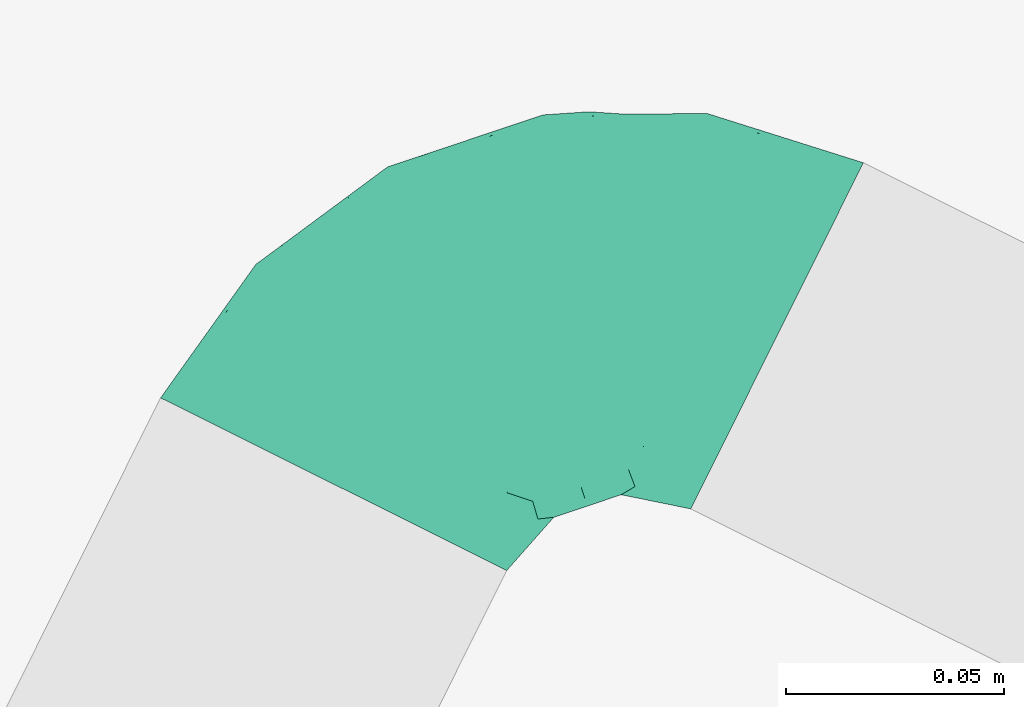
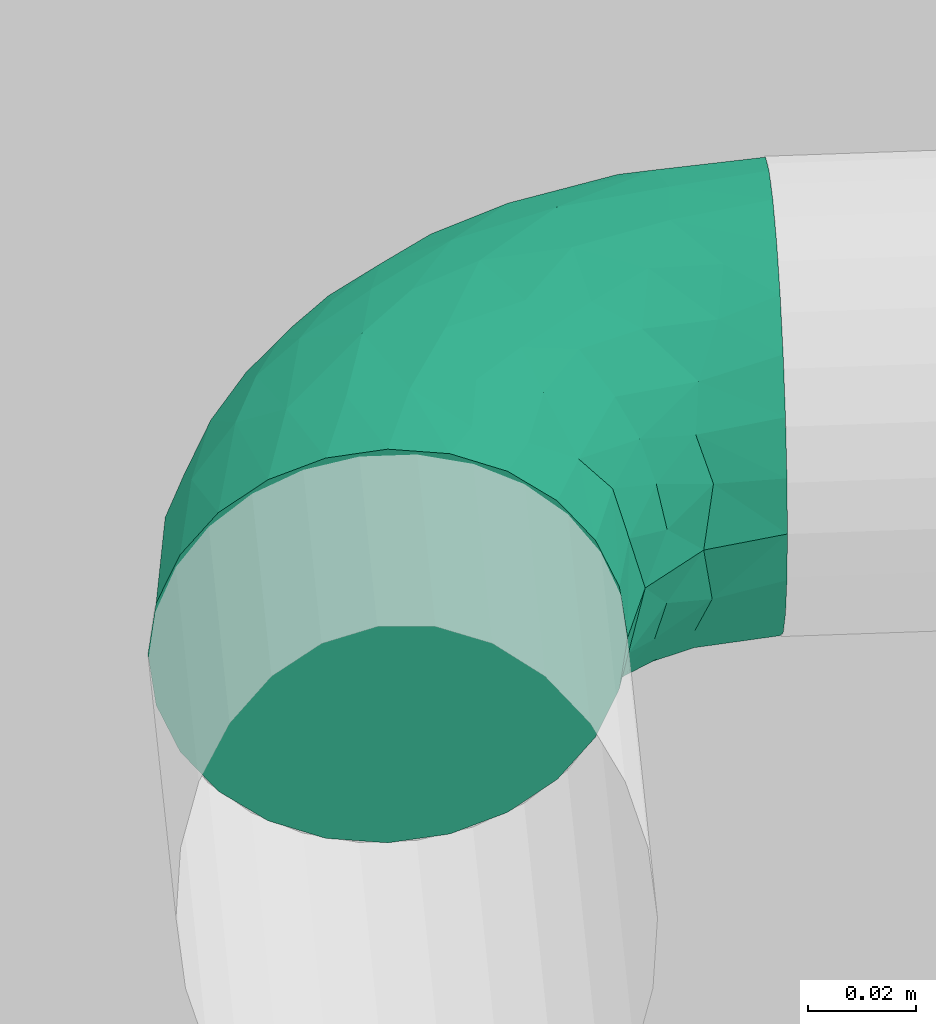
# One storey, part 83 of 91: 1 flow fitting.
"""IFC2X3 building model written with IfcOpenShell, lengths in metres."""

from ifc_helpers import new_model, entity, si_unit, converted_unit, derived_unit, direction, frame, origin, place, context, subcontext, project, spatial, faceted_brep, source, transform, mapped, type_object, type_shapes, element, save


model = new_model("IFC2X3")

# Units and contexts
model_context = context("Model", 3, precision=1e-05, world=origin(), true_north=direction((0.894925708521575, 0.446215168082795)))
context_of_model = context(None, 3, precision=1e-05, world=origin(), true_north=direction((0.894925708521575, 0.446215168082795)))
body_context = subcontext(model_context, "Body", "Model", "MODEL_VIEW")
ifc_project = project(units=[si_unit("LENGTHUNIT", "METRE"), si_unit("AREAUNIT", "SQUARE_METRE"), si_unit("VOLUMEUNIT", "CUBIC_METRE"), converted_unit("PLANEANGLEUNIT", "DEGREE", entity("IfcRatioMeasure", 0.0174532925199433), si_unit("PLANEANGLEUNIT", "RADIAN"), dimensions=[0, 0, 0, 0, 0, 0, 0]), si_unit("MASSUNIT", "GRAM", prefix="KILO"), si_unit("TIMEUNIT", "SECOND"), si_unit("FREQUENCYUNIT", "HERTZ"), si_unit("THERMODYNAMICTEMPERATUREUNIT", "DEGREE_CELSIUS"), derived_unit("THERMALTRANSMITTANCEUNIT", [(si_unit("MASSUNIT", "GRAM", prefix="KILO"), 1), (si_unit("THERMODYNAMICTEMPERATUREUNIT", "KELVIN"), -1), (si_unit("TIMEUNIT", "SECOND"), -3)]), derived_unit("VOLUMETRICFLOWRATEUNIT", [(si_unit("LENGTHUNIT", "METRE"), 3), (si_unit("TIMEUNIT", "SECOND"), -1)]), si_unit("ELECTRICCURRENTUNIT", "AMPERE"), si_unit("ELECTRICVOLTAGEUNIT", "VOLT"), si_unit("POWERUNIT", "WATT"), si_unit("FORCEUNIT", "NEWTON", prefix="KILO"), si_unit("ILLUMINANCEUNIT", "LUX"), si_unit("LUMINOUSFLUXUNIT", "LUMEN"), si_unit("LUMINOUSINTENSITYUNIT", "CANDELA"), si_unit("PRESSUREUNIT", "PASCAL")], contexts=[model_context, context_of_model])

# Site, building, storey
site_placement = place(None, frame((218.228324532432, 584.720189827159, 0.0), z_axis=(0.0, 0.0, 1.0), x_axis=(0.446215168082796, 0.894925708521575, 0.0)))
site = spatial("IfcSite", under=ifc_project, at=site_placement, Name="Default", CompositionType="ELEMENT")
building_placement = place(site_placement, origin())
building = spatial("IfcBuilding", under=site, at=building_placement, CompositionType="ELEMENT")
storey_placement = place(building_placement, origin())
storey = spatial("IfcBuildingStorey", under=building, at=storey_placement, Name="0 - Piano Terra", CompositionType="ELEMENT", Elevation=0.0)

# Flow fitting
pipe_fitting_type = type_object("IfcPipeFittingType", Name="Standard", PredefinedType="NOTDEFINED")
shared_shape = source(origin(), body_context, "Body", "Brep", [
    faceted_brep([(-0.0759999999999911, 0.0222249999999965, -0.0384948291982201), (-0.0759999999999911, 0.0115045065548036, -0.0429354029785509), (-0.0759999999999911, 0.0, -0.0444500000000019), (-0.0759999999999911, -0.0115045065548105, -0.042935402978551), (-0.075999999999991, -0.0222250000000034, -0.0384948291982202), (-0.075999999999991, -0.0314308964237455, -0.031430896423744), (-0.075999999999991, -0.0384948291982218, -0.022225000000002), (-0.075999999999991, -0.0429354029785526, -0.011504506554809), (-0.075999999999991, -0.0444500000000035, 0.0), (-0.075999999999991, -0.0429354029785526, 0.011504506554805), (-0.075999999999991, -0.0384948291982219, 0.022224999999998), (-0.075999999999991, -0.0314308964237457, 0.0314308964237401), (-0.075999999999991, -0.0222250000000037, 0.0384948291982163), (-0.0759999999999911, -0.0115045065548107, 0.0429354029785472), (-0.0759999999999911, 0.0, 0.0444499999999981), (-0.0759999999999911, 0.0115045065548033, 0.0429354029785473), (-0.0759999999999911, 0.0222249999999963, 0.0384948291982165), (-0.0759999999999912, 0.0314308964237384, 0.0314308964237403), (-0.0759999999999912, 0.0384948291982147, 0.0222249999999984), (-0.0759999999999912, 0.0429354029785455, 0.0115045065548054), (-0.0759999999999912, 0.0444499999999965, 0.0), (-0.0759999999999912, 0.0429354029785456, -0.0115045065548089), (-0.0759999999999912, 0.0384948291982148, -0.0222250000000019), (-0.0759999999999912, 0.0314308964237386, -0.0314308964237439), (0.0, 0.0759999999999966, -0.0444500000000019), (-0.0115045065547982, 0.0759999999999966, -0.0429354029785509), (-0.0222249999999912, 0.0759999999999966, -0.0384948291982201), (-0.0314308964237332, 0.0759999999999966, -0.0314308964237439), (-0.0384948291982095, 0.0759999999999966, -0.0222250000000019), (-0.0429354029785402, 0.0759999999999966, -0.0115045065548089), (-0.0444499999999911, 0.0759999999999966, 0.0), (-0.0429354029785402, 0.0759999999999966, 0.0115045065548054), (-0.0384948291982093, 0.0759999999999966, 0.0222249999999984), (-0.031430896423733, 0.0759999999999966, 0.0314308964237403), (-0.0222249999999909, 0.0759999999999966, 0.0384948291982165), (-0.011504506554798, 0.0759999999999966, 0.0429354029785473), (0.0, 0.0759999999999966, 0.0444499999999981), (0.0115045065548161, 0.0759999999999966, 0.0429354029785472), (0.022225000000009, 0.0759999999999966, 0.0384948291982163), (0.031430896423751, 0.0759999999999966, 0.0314308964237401), (0.0384948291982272, 0.0759999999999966, 0.022224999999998), (0.042935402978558, 0.0759999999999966, 0.011504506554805), (0.0444500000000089, 0.0759999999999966, 0.0), (0.0429354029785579, 0.0759999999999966, -0.011504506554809), (0.0384948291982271, 0.0759999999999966, -0.022225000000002), (0.0314308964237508, 0.0759999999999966, -0.031430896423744), (0.0222250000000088, 0.0759999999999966, -0.0384948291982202), (0.0115045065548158, 0.0759999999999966, -0.042935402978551), (-0.055251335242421, -0.0350999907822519, 0.0246019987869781), (-0.0387789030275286, -0.0385547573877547, 0.0), (-0.0513960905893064, -0.0397481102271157, 0.0135506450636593), (-0.0541387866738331, -0.0409875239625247, 0.0), (0.0164280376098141, 0.018681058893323, 0.0300447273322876), (0.0133440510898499, 0.00595972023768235, 0.0238254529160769), (0.0227502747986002, 0.0181678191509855, 0.0223222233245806), (-0.0566160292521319, 0.00529376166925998, 0.0443688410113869), (-0.0518504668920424, 0.0178853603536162, 0.0424858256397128), (-0.0658426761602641, 0.0162370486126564, 0.0417044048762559), (0.00670599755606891, 0.0058076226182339, 0.0303487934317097), (0.00217280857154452, -0.00488037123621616, 0.0253915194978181), (0.0217662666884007, 0.0334721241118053, 0.0322256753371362), (0.0133779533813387, 0.0277507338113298, 0.0363591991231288), (-0.0489098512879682, -0.0265635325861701, 0.0327252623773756), (-0.0551815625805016, -0.0175181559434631, 0.0397928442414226), (-0.0321967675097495, -0.0350744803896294, 0.0096061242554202), (-0.0219900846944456, -0.0300004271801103, 0.0), (-0.0380359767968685, 0.0129504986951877, 0.0443849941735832), (-0.0499161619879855, 0.0304962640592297, 0.0376985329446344), (-0.0641975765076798, 0.0266916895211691, 0.0365481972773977), (-0.0267918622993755, 0.0407735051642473, 0.0416664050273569), (-0.0178853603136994, 0.0518504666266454, 0.0424858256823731), (-0.0304962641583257, 0.0499161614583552, 0.0376985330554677), (-0.0162370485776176, 0.0658426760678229, 0.0417044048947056), (-0.00529376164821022, 0.0566160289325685, 0.0443688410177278), (-0.060002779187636, 0.0363683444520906, 0.0294868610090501), (-0.0571942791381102, -0.00652591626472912, 0.0436019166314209), (-0.0131742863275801, -0.0091104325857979, 0.0329931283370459), (-0.0104548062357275, -0.0146502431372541, 0.0262592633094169), (-0.0363683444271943, 0.060002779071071, 0.0294868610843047), (-0.0266916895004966, 0.0641975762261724, 0.036548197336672), (-0.0591167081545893, 0.0427163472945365, 0.0219026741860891), (-0.0130572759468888, 0.0374829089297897, 0.0443951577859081), (-0.0283996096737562, 0.02839960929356, 0.0435936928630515), (-0.0206947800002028, 0.0157137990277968, 0.0440684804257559), (-0.0622162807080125, 0.0455810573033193, 0.0126773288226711), (-0.0512634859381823, 0.0512634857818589, 0.0171284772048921), (-0.0440264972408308, 0.0440264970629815, 0.032066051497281), (-0.0427163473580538, 0.0591167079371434, 0.0219026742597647), (-0.0484175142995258, 0.0479614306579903, 0.0251239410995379), (0.0175181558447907, 0.0551815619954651, 0.0397928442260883), (0.0265635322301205, 0.0489098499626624, 0.0327252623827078), (-0.0531667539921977, 0.0531667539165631, 0.00808290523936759), (0.0397481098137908, 0.0513960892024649, 0.0135506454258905), (0.0350999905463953, 0.0552513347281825, 0.0246019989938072), (0.0300990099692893, 0.0319822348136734, 0.0215664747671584), (0.00652591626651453, 0.0571942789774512, 0.0436019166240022), (-0.0360375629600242, -0.00228367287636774, 0.0428291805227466), (0.0409875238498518, 0.0541387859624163, 0.0), (-0.00769711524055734, 0.023069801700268, 0.0432135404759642), (-0.0161281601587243, 0.00441100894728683, 0.0409345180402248), (-0.000438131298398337, 0.0181073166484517, 0.0400941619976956), (0.0300004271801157, 0.0219900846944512, 0.0), (0.0350744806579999, 0.0321967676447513, 0.00960612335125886), (0.0263186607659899, 0.0155052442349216, 0.0117666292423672), (-0.0291179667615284, -0.0225220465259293, 0.0296592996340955), (-0.0277507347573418, -0.0133779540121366, 0.0363591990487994), (-0.0602249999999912, 0.0486768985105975, 0.0), (-0.0486768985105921, 0.0602249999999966, 0.0), (-0.0455810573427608, 0.0622162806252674, 0.0126773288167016), (-0.0407466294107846, 0.0268307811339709, 0.0416604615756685), (-0.0377601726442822, 0.0377601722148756, 0.0386689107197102), (-0.00520126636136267, -0.0214460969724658, 0.0), (-0.0155052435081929, -0.0263186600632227, 0.0117666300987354), (-0.0319822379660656, -0.0300990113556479, 0.0215664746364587), (0.00228367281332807, 0.0360375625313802, 0.0428291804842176), (0.0214460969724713, 0.00520126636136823, 0.0), (0.0160594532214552, -0.000115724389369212, 0.00937076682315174), (0.00329314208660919, -0.0118779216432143, 0.0134585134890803), (0.0186652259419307, 0.00689538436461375, 0.0166724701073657), (0.0385547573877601, 0.0387789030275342, 0.0), (-0.00882562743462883, -0.0191172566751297, 0.0184368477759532), (0.00812241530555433, -0.00812241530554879, 0.0), (-0.00308956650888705, 0.00308956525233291, 0.0352249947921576), (0.00665750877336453, 0.014449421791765, 0.0352664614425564), (-0.0663119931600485, 0.0352211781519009, -0.0285295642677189), (0.0356416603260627, 0.063567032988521, -0.0256086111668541), (-0.0597195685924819, 0.00503106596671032, -0.0443355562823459), (-0.0428757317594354, 0.0435409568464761, -0.0331401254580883), (-0.0472933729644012, 0.0477547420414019, -0.0264450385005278), (-0.0380854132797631, 0.0547099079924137, -0.0303060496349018), (-0.0408534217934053, 0.00868227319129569, -0.0444499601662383), (-0.0550040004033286, 0.0172386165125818, -0.0423182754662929), (-0.0619986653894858, 0.0454344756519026, -0.0134059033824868), (-0.0424796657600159, 0.058945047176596, -0.0224049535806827), (-0.0530961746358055, 0.0530961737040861, -0.008605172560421), (-0.005031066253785, 0.0597195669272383, -0.0443355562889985), (-0.0172386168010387, 0.0550039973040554, -0.0423182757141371), (-0.0453499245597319, 0.0261375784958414, -0.0408727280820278), (-0.0597445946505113, 0.0272482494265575, -0.0370157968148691), (-0.0484821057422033, 0.0337753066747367, -0.0363378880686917), (-0.0108421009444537, 0.0108420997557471, -0.0414134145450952), (0.00292359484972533, 0.0313950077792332, -0.0419642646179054), (0.00576470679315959, 0.015577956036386, -0.036290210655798), (-0.0239048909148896, 0.00889487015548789, -0.0435390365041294), (-0.0280822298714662, 0.0165780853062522, -0.0444487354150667), (-0.0155353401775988, 0.0222215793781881, -0.0441768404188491), (-0.0548671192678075, -0.0402641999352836, -0.0140556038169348), (-0.0635670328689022, -0.035641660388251, -0.0256086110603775), (-0.0468237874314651, -0.0338951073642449, -0.0235445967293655), (-0.0542773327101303, -0.0272310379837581, -0.0332571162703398), (-0.0295224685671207, -0.0279582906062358, -0.0232657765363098), (0.0206432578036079, 0.026645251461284, -0.0303065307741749), (0.0272310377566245, 0.0542773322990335, -0.0332571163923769), (0.0338951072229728, 0.0468237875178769, -0.0235445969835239), (-0.063773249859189, -0.0178670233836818, -0.0403436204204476), (-0.0454344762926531, 0.0619986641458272, -0.0134059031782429), (-0.0509858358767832, 0.0509858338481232, -0.018040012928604), (-0.0266452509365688, -0.0206432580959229, -0.0303065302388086), (0.0402641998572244, 0.0548671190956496, -0.0140556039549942), (0.033135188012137, 0.0290265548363, -0.0119449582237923), (-0.0471571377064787, -0.0164855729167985, -0.0392413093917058), (-0.0554032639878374, -0.00637620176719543, -0.0435474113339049), (-0.031395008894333, -0.00292359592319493, -0.0419642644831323), (-0.0589796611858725, 0.0424071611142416, -0.0224886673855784), (-0.0283863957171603, -0.0127648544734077, -0.0369364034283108), (-0.0110970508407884, -0.00438905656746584, -0.0350639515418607), (-0.0353996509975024, -0.0349521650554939, -0.0141213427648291), (-0.0539297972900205, 0.0384008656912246, -0.0304288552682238), (-0.0272482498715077, 0.0597445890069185, -0.0370157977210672), (0.0063762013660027, 0.0554032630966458, -0.0435474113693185), (0.0178670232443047, 0.0637732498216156, -0.0403436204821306), (-0.0130026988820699, -0.0185218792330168, -0.0237207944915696), (0.00307688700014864, -0.0126882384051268, -0.0119183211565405), (-0.0178636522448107, -0.0261829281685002, -0.0157567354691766), (0.01648557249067, 0.0471571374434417, -0.0392413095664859), (-0.0351708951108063, 0.0668051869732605, -0.0284550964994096), (-0.0143062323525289, -0.0267882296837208, -0.00708720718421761), (-0.0367961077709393, 0.036796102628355, -0.0394106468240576), (-0.0263944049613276, 0.0276845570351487, -0.0439339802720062), (0.0115291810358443, 0.0308300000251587, -0.0383364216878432), (0.0277415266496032, 0.0267890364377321, -0.0216489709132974), (-0.00868227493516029, 0.040853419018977, -0.0444499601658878), (-0.0263216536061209, 0.0459443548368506, -0.0406700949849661), (-0.0192830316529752, 0.0407360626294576, -0.0434845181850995), (-0.0337233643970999, 0.049471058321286, -0.0359883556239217), (-0.0405538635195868, 0.018597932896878, -0.0436227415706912), (0.00798111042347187, 0.00716693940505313, -0.0302321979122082), (0.0176308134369, 0.0122534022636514, -0.0242211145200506), (0.00408183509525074, -0.00408183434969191, -0.0242493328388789), (0.0197800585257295, 0.00739832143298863, -0.0150810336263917)], [[[0, 1, 2, 3, 4, 5, 6, 7, 8, 9, 10, 11, 12, 13, 14, 15, 16, 17, 18, 19, 20, 21, 22, 23]], [[24, 25, 26, 27, 28, 29, 30, 31, 32, 33, 34, 35, 36, 37, 38, 39, 40, 41, 42, 43, 44, 45, 46, 47]], [[10, 48, 11]], [[49, 50, 51]], [[52, 53, 54]], [[9, 50, 10]], [[9, 51, 50]], [[55, 56, 57]], [[48, 10, 50]], [[58, 59, 53]], [[60, 61, 52]], [[62, 12, 11]], [[62, 63, 12]], [[64, 49, 65]], [[56, 55, 66]], [[56, 67, 68]], [[69, 70, 71]], [[16, 15, 57]], [[35, 72, 73]], [[74, 18, 17]], [[75, 14, 13]], [[76, 77, 59]], [[78, 71, 79]], [[74, 80, 18]], [[81, 82, 83]], [[20, 19, 84]], [[85, 84, 80]], [[70, 81, 73]], [[86, 74, 67]], [[87, 88, 78]], [[38, 89, 90]], [[85, 91, 84]], [[92, 93, 94]], [[17, 16, 68]], [[93, 40, 39]], [[36, 95, 37]], [[96, 66, 55]], [[36, 35, 73]], [[90, 39, 38]], [[92, 97, 41]], [[98, 99, 100]], [[93, 92, 40]], [[31, 87, 32]], [[92, 41, 40]], [[71, 78, 86]], [[101, 102, 103]], [[104, 105, 62]], [[106, 91, 107]], [[96, 63, 105]], [[107, 108, 30]], [[109, 69, 110]], [[107, 91, 108]], [[111, 112, 65]], [[32, 78, 33]], [[89, 38, 37]], [[31, 108, 87]], [[89, 61, 60]], [[79, 34, 33]], [[72, 35, 34]], [[12, 63, 13]], [[113, 62, 48]], [[103, 102, 94]], [[80, 88, 85]], [[15, 14, 55]], [[70, 69, 81]], [[95, 73, 114]], [[75, 55, 14]], [[96, 83, 66]], [[105, 63, 62]], [[75, 63, 96]], [[104, 62, 113]], [[105, 76, 99]], [[95, 89, 37]], [[61, 89, 114]], [[100, 61, 114]], [[58, 53, 52]], [[86, 67, 110]], [[70, 72, 79]], [[74, 17, 68]], [[109, 82, 69]], [[113, 48, 50]], [[62, 11, 48]], [[39, 90, 93]], [[94, 93, 90]], [[64, 113, 50]], [[115, 103, 116]], [[53, 59, 117]], [[53, 118, 54]], [[73, 95, 36]], [[89, 95, 114]], [[63, 75, 13]], [[55, 75, 96]], [[106, 20, 84]], [[108, 91, 85]], [[106, 84, 91]], [[80, 19, 18]], [[80, 84, 19]], [[88, 74, 86]], [[108, 85, 87]], [[108, 31, 30]], [[87, 85, 88]], [[32, 87, 78]], [[82, 109, 66]], [[114, 73, 81]], [[99, 83, 96]], [[81, 83, 98]], [[9, 8, 51]], [[97, 92, 119]], [[97, 42, 41]], [[82, 66, 83]], [[120, 113, 112]], [[117, 121, 116]], [[74, 88, 80]], [[88, 86, 78]], [[65, 112, 64]], [[111, 117, 112]], [[120, 112, 117]], [[101, 103, 115]], [[92, 102, 119]], [[118, 117, 116]], [[113, 64, 112]], [[49, 64, 50]], [[119, 102, 101]], [[94, 102, 92]], [[105, 99, 96]], [[100, 99, 122]], [[100, 122, 123]], [[98, 100, 114]], [[78, 79, 33]], [[70, 79, 71]], [[68, 16, 57]], [[74, 68, 67]], [[81, 98, 114]], [[99, 98, 83]], [[118, 116, 103]], [[54, 103, 94]], [[121, 117, 111]], [[121, 115, 116]], [[117, 118, 53]], [[103, 54, 118]], [[90, 60, 94]], [[54, 94, 60]], [[58, 123, 122]], [[123, 52, 61]], [[76, 59, 58]], [[76, 58, 122]], [[59, 77, 120]], [[52, 123, 58]], [[100, 123, 61]], [[60, 52, 54]], [[89, 60, 90]], [[79, 72, 34]], [[73, 72, 70]], [[55, 57, 15]], [[68, 57, 56]], [[113, 77, 104]], [[76, 104, 77]], [[110, 69, 71]], [[81, 69, 82]], [[86, 110, 71]], [[110, 67, 109]], [[67, 56, 109]], [[66, 109, 56]], [[99, 76, 122]], [[104, 76, 105]], [[59, 120, 117]], [[113, 120, 77]], [[22, 124, 23]], [[45, 44, 125]], [[1, 126, 2]], [[127, 128, 129]], [[130, 126, 131]], [[131, 1, 0]], [[106, 132, 20]], [[129, 128, 133]], [[132, 106, 134]], [[25, 135, 136]], [[137, 138, 139]], [[140, 141, 142]], [[143, 144, 145]], [[138, 131, 0]], [[146, 6, 147]], [[148, 149, 150]], [[146, 51, 7]], [[151, 152, 153]], [[149, 5, 4]], [[0, 23, 138]], [[154, 149, 4]], [[155, 133, 156]], [[6, 146, 7]], [[147, 6, 5]], [[150, 149, 157]], [[154, 4, 3]], [[158, 44, 43]], [[153, 158, 159]], [[106, 107, 134]], [[125, 152, 45]], [[30, 29, 155]], [[160, 161, 162]], [[132, 163, 21]], [[164, 162, 165]], [[146, 148, 166]], [[128, 127, 167]], [[168, 27, 26]], [[46, 45, 152]], [[169, 47, 170]], [[171, 172, 173]], [[152, 174, 170]], [[24, 135, 25]], [[28, 27, 175]], [[47, 46, 170]], [[176, 172, 111]], [[137, 177, 178]], [[142, 141, 179]], [[153, 159, 180]], [[141, 181, 169]], [[161, 160, 154]], [[153, 125, 158]], [[47, 169, 24]], [[158, 97, 119]], [[26, 136, 168]], [[161, 3, 2]], [[151, 174, 152]], [[156, 163, 132]], [[25, 136, 26]], [[182, 183, 178]], [[134, 155, 156]], [[127, 129, 184]], [[131, 137, 185]], [[141, 169, 174]], [[135, 169, 181]], [[179, 151, 142]], [[141, 140, 145]], [[158, 43, 97]], [[159, 158, 119]], [[115, 159, 119, 101]], [[157, 149, 160]], [[147, 149, 148]], [[126, 161, 2]], [[145, 140, 143]], [[130, 162, 161]], [[162, 140, 165]], [[150, 171, 173]], [[65, 176, 111]], [[142, 165, 140]], [[153, 180, 151]], [[148, 150, 166]], [[43, 42, 97]], [[107, 30, 155]], [[132, 134, 156]], [[124, 138, 23]], [[167, 127, 139]], [[184, 182, 177]], [[175, 168, 129]], [[186, 151, 187]], [[188, 171, 165]], [[165, 142, 186]], [[165, 157, 164]], [[107, 155, 134]], [[133, 29, 28]], [[29, 133, 155]], [[175, 133, 28]], [[128, 163, 156]], [[132, 21, 20]], [[124, 163, 167]], [[21, 163, 22]], [[163, 128, 167]], [[156, 133, 128]], [[51, 146, 49]], [[51, 8, 7]], [[184, 129, 168]], [[167, 139, 138]], [[127, 177, 139]], [[137, 139, 177]], [[178, 177, 182]], [[138, 137, 131]], [[145, 178, 181]], [[131, 185, 130]], [[137, 178, 185]], [[144, 185, 178]], [[182, 168, 136]], [[177, 127, 184]], [[168, 182, 184]], [[182, 136, 183]], [[136, 181, 183]], [[181, 178, 183]], [[131, 126, 1]], [[161, 126, 130]], [[169, 135, 24]], [[136, 135, 181]], [[176, 166, 173]], [[49, 146, 166]], [[189, 172, 188]], [[49, 166, 65]], [[189, 121, 172]], [[180, 187, 151]], [[189, 159, 115]], [[141, 145, 181]], [[140, 162, 143]], [[166, 176, 65]], [[172, 176, 173]], [[162, 130, 143]], [[144, 143, 130]], [[185, 144, 130]], [[178, 145, 144]], [[163, 124, 22]], [[138, 124, 167]], [[152, 170, 46]], [[169, 170, 174]], [[158, 125, 44]], [[152, 125, 153]], [[161, 154, 3]], [[149, 154, 160]], [[149, 147, 5]], [[146, 147, 148]], [[168, 175, 27]], [[133, 175, 129]], [[159, 189, 180]], [[187, 180, 189]], [[189, 188, 187]], [[186, 187, 188]], [[165, 186, 188]], [[151, 186, 142]], [[171, 150, 157]], [[166, 150, 173]], [[165, 171, 157]], [[172, 171, 188]], [[141, 174, 179]], [[151, 179, 174]], [[157, 160, 164]], [[162, 164, 160]], [[121, 189, 115]], [[121, 111, 172]]]),
])
type_shapes(pipe_fitting_type, [shared_shape])
flow_fitting_placement = place(storey_placement, frame((11.8942149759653, -4.75107899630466, 3.5), z_axis=(0.0, 0.0, 1.0), x_axis=(0.0, 1.0, 0.0)))
element("IfcFlowFitting", 1, at=flow_fitting_placement, inside=storey, type_object=pipe_fitting_type, Name="M_Gomito - Saldato - Generico:Standard", ObjectType="Standard", context=body_context, shape_type="MappedRepresentation", body=[
    mapped(shared_shape, transform((0.0, 0.0, 0.0), scale=1.0)),
])

save(model, "model.ifc")
